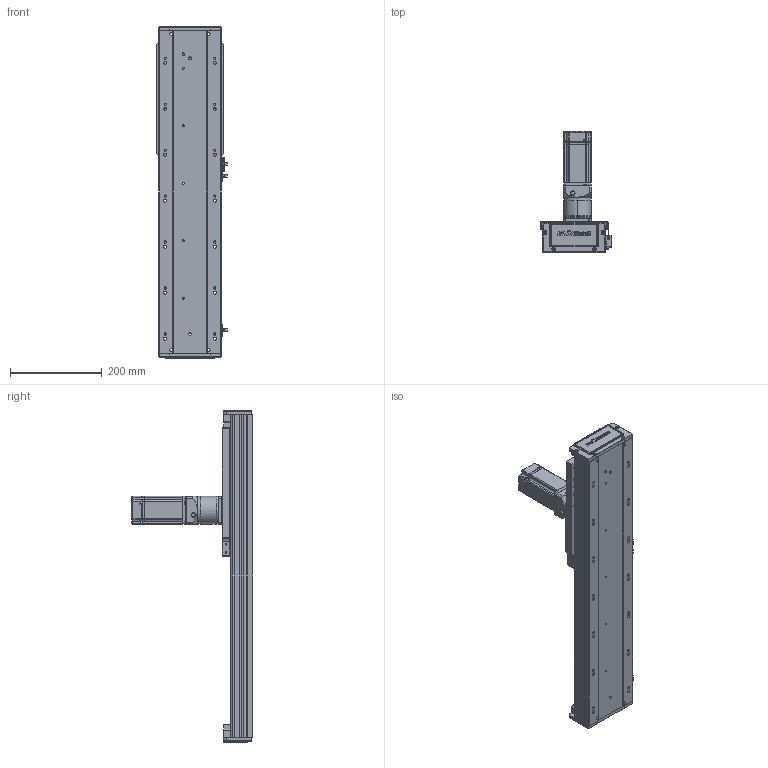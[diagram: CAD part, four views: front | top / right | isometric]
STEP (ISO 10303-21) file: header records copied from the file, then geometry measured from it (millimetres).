
FILE_DESCRIPTION (( 'STEP AP203' ), '1' );
FILE_NAME ('RY140-C-250-UK.SLDASM_350.step', '2022-03-12T01:58:10', ( '' ), ( '' ), 'SwSTEP 2.0', 'SolidWorks 2016', '' );
FILE_SCHEMA (( 'CONFIG_CONTROL_DESIGN' ));
Length unit declared in the file: millimetre
Products named in the file (12): 140蚥薯蝶輸; RY140-C-250-UK.SLDASM_350; RY120外置感应片(140共用）; 15; RY140-喘沭賑輸; RY140-絳寢EGH15-300-MK_350; RY140-喘沭裔啣; 60ZDF珨撰俋倛芞T1 200W M4; 覜茼ん672; RY140-喘謫萇儂覃誹啣; RY140-300齿条模组型材底座_350; 絳寢賑輸EGH15
Assembly tree (21 placements, depth 2):
  RY140-C-250-UK.SLDASM_350
    RY140-300齿条模组型材底座_350
    RY140-絳寢EGH15-300-MK_350  x2
    絳寢賑輸EGH15  x6
    RY140-喘沭裔啣  x2
    覜茼ん672  x3
    RY140-喘沭賑輸
    RY120外置感应片(140共用）
    RY140-喘謫萇儂覃誹啣
    140蚥薯蝶輸  x2
    60ZDF珨撰俋倛芞T1 200W M4
    15
Bounding box: 153.7 x 263.5 x 722 mm (x, y, z)
Volume: 3471157.4 mm3; surface area: 844799.3 mm2
Topology: 21 solids, 21 shells, 3068 faces, 8054 edges, 5226 vertices
Faces by surface type: plane 1612, cylinder 1214, cone 196, bspline 46
Entity records: 65633 total; most frequent: CARTESIAN_POINT 13734, DIRECTION 10569, ORIENTED_EDGE 10410, EDGE_CURVE 5205, AXIS2_PLACEMENT_3D 3694, VERTEX_POINT 3403, VECTOR 3181, LINE 3181
